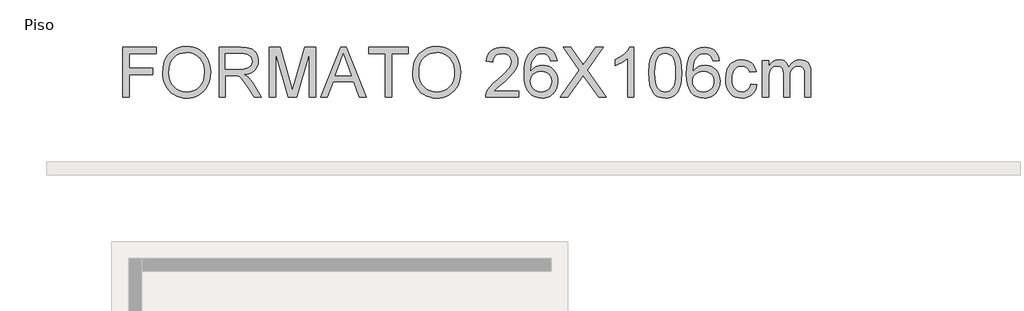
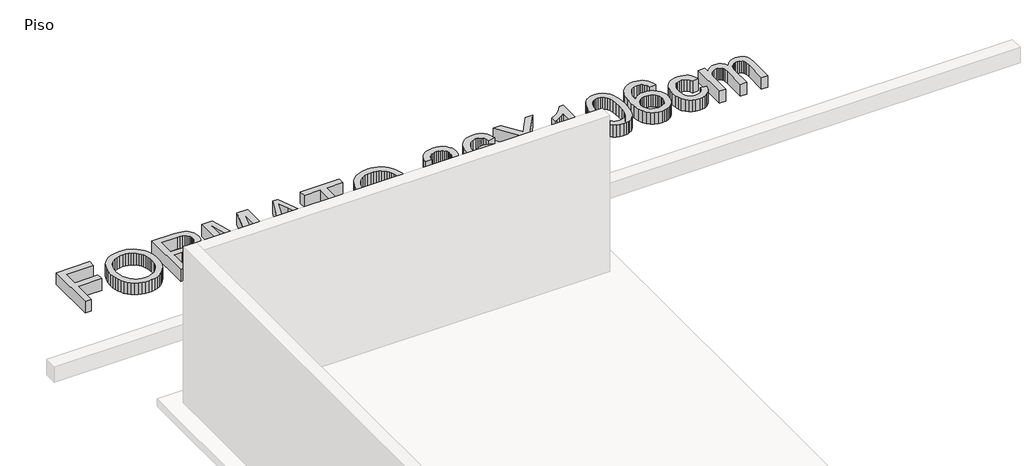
# One storey, part 2 of 2: 1 proxy.
"""IFC4 building model written with IfcOpenShell, lengths in millimetres."""

from ifc_helpers import new_model, si_unit, origin, origin_with_axes, place, context, project, spatial, polyline, outline, extrude, element, save

model = new_model("IFC4")

# Units and contexts
model_context = context("Model", 3, world=origin())
ifc_project = project(units=[si_unit("LENGTHUNIT", "METRE", prefix="MILLI")], contexts=[model_context])

# Site, building, storey
site = spatial("IfcSite", under=ifc_project)
building = spatial("IfcBuilding", under=site)
storey = spatial("IfcBuildingStorey", under=building, Name="Piso", Elevation=0.0)

# Proxy
placement = place(None, origin())
element("IfcBuildingElementProxy", 1, Name="600mm Arial", ObjectType="600mm Arial", at=placement, inside=storey, context=model_context, shape_type="SweptSolid", body=[
    extrude(outline(polyline([(288202.0859381, 2702.6380465), (288202.0859381, 3305.3759074), (288607.0504384, 3305.3759074), (288607.0504384, 3230.0336748), (288277.4281707, 3230.0336748), (288277.4281707, 3051.0958724), (288559.961543, 3051.0958724), (288559.961543, 2975.7536397), (288277.4281707, 2975.7536397), (288277.4281707, 2702.6380465), (288202.0859381, 2702.6380465)])), origin_with_axes(), (0.0, 0.0, 1.0), 150.0),
    extrude(outline(polyline([(288682.392671, 2996.0607259), (288687.4142602, 3066.7584483), (288702.4790279, 3129.3443727), (288727.5869741, 3183.8184992), (288743.9071391, 3208.0136381), (288762.7380987, 3230.1808276), (288805.8262774, 3267.1989534), (288854.7453857, 3293.6404718), (288909.4954237, 3309.5053828), (288970.0763912, 3314.7936865), (289010.6261841, 3312.310483), (289049.134232, 3304.8608726), (289085.6005348, 3292.4448553), (289120.0250925, 3275.062431), (289151.4422148, 3253.2378317), (289178.8862117, 3227.495289), (289202.357083, 3197.8348032), (289221.8548287, 3164.2563741), (289237.1771138, 3127.5233569), (289248.1216032, 3088.3991067), (289254.6882968, 3046.8836235), (289256.8771947, 3002.9769074), (289254.5733337, 2958.4907771), (289247.6617507, 2916.4142739), (289236.1424457, 2876.7473978), (289220.0154187, 2839.4901487), (289199.6623474, 2805.6266111), (289175.4649091, 2776.1408692), (289147.423104, 2751.032923), (289115.5369321, 2730.3027726), (289081.0617906, 2714.0791766), (289045.2530769, 2702.4908937), (289008.110791, 2695.537924), (288969.6349328, 2693.2202674), (288928.3769671, 2695.7816458), (288889.3630815, 2703.465781), (288852.5932761, 2716.272673), (288818.0675508, 2734.2023217), (288786.6872166, 2756.56035), (288759.3535844, 2782.6523805), (288736.0666541, 2812.4784132), (288716.8264257, 2846.0384482), (288701.761658, 2881.9851177), (288691.0011097, 2918.9710538), (288684.5447807, 2956.9962565), (288682.392671, 2996.0607259)]), holes=[polyline([(288757.7349036, 2995.3249619), (288761.5010955, 2945.375784), (288772.7996713, 2901.0368065), (288791.6306309, 2862.3080295), (288817.9939744, 2829.1894529), (288850.0410947, 2802.665161), (288885.9233848, 2783.7192383), (288925.6408447, 2772.3516846), (288969.1934744, 2768.5625001), (289013.4910652, 2772.3884728), (289053.6775746, 2783.8663911), (289089.7530028, 2802.9962548), (289121.7173496, 2829.7780641), (289147.8875551, 2863.5956165), (289166.5805589, 2903.8327097), (289177.7963613, 2950.4893437), (289181.5349621, 3003.5655186), (289179.9346754, 3038.0452586), (289175.1338153, 3070.2625243), (289167.1323819, 3100.2173158), (289155.9303752, 3127.9096329), (289141.6519552, 3152.9761924), (289124.4212823, 3175.0537106), (289104.2383563, 3194.1421877), (289081.1031774, 3210.2416235), (289055.7331153, 3223.0209243), (289028.84554, 3232.1489963), (289000.4404514, 3237.6258395), (288970.5178496, 3239.4514539), (288928.4781346, 3235.9335823), (288889.4734461, 3225.3799676), (288853.503784, 3207.7906097), (288820.5691484, 3183.1655086), (288793.0791663, 3150.318245), (288773.4434648, 3108.0623993), (288761.6620439, 3056.3979716), (288757.7349036, 2995.3249619)])]), origin_with_axes(), (0.0, 0.0, 1.0), 150.0),
    extrude(outline(polyline([(289360.4727645, 2702.6380465), (289360.4727645, 3305.3759074), (289620.1974531, 3305.3759074), (289690.0030617, 3301.3108114), (289740.7891711, 3289.1155232), (289760.3880844, 3279.4218327), (289777.9084644, 3266.6011451), (289793.3503112, 3250.6534606), (289806.7136247, 3231.5787792), (289817.4971656, 3210.4025718), (289825.1996949, 3188.1503097), (289829.8212125, 3164.8219926), (289831.3617183, 3140.4176208), (289828.809537, 3109.4603509), (289821.152993, 3081.0414668), (289808.3920863, 3055.1609684), (289790.5268169, 3031.8188558), (289767.3272585, 3011.76009), (289738.563485, 2995.7296321), (289704.2354964, 2983.727482), (289664.3432925, 2975.7536397), (289689.1753272, 2959.5300438), (289707.1647568, 2943.527177), (289738.0300562, 2906.9229184), (289768.233168, 2865.9776524), (289868.738529, 2702.6380465), (289781.1826142, 2702.6380465), (289702.7501728, 2827.5707721), (289646.0963456, 2910.2706446), (289625.0351013, 2934.3853094), (289606.2915137, 2949.3397125), (289570.4598074, 2963.6871103), (289526.7554263, 2966.3358607), (289435.8149971, 2966.3358607), (289435.8149971, 2702.6380465), (289360.4727645, 2702.6380465)]), holes=[polyline([(289435.8149971, 3041.6780933), (289604.4521037, 3041.6780933), (289652.8837684, 3044.3452377), (289690.4629142, 3052.3466711), (289718.7530396, 3066.2158224), (289739.3176431, 3086.4861203), (289751.8440251, 3111.0054553), (289756.0194857, 3137.6217176), (289754.0283244, 3156.8895371), (289748.0548405, 3174.3731289), (289738.099034, 3190.0724931), (289724.1609049, 3203.9876296), (289705.9185565, 3215.3827744), (289683.050092, 3223.5221635), (289655.5555114, 3228.405797), (289623.4348147, 3230.0336748), (289435.8149971, 3230.0336748), (289435.8149971, 3041.6780933)])]), origin_with_axes(), (0.0, 0.0, 1.0), 150.0),
    extrude(outline(polyline([(289963.2106254, 2702.6380465), (289963.2106254, 3305.3759074), (290092.8522405, 3305.3759074), (290216.1662853, 2880.5457794), (290241.0351082, 2791.8126422), (290267.9640702, 2887.9034193), (290389.2179758, 3305.3759074), (290518.8595909, 3305.3759074), (290518.8595909, 2702.6380465), (290443.5173583, 2702.6380465), (290443.5173583, 3230.0336748), (290292.0971291, 2702.6380465), (290189.9730872, 2702.6380465), (290038.552858, 3230.0336748), (290038.552858, 2702.6380465), (289963.2106254, 2702.6380465)])), origin_with_axes(), (0.0, 0.0, 1.0), 150.0),
    extrude(outline(polyline([(290580.5166133, 2702.6380465), (290821.1114382, 3305.3759074), (290885.2700581, 3305.3759074), (291125.864883, 2702.6380465), (291046.2552192, 2702.6380465), (290977.2405569, 2890.9936281), (290728.9937866, 2890.9936281), (290660.1262771, 2702.6380465), (290580.5166133, 2702.6380465)]), holes=[polyline([(290756.6585126, 2966.3358607), (290949.7229837, 2966.3358607), (290895.4236012, 3114.5187283), (290853.1907481, 3230.0336748), (290815.6667846, 3127.4681746), (290756.6585126, 2966.3358607)])]), origin_with_axes(), (0.0, 0.0, 1.0), 150.0),
    extrude(outline(polyline([(291357.0419287, 2702.6380465), (291357.0419287, 3230.0336748), (291159.2685681, 3230.0336748), (291159.2685681, 3305.3759074), (291630.1575219, 3305.3759074), (291630.1575219, 3230.0336748), (291432.3841613, 3230.0336748), (291432.3841613, 2702.6380465), (291357.0419287, 2702.6380465)])), origin_with_axes(), (0.0, 0.0, 1.0), 150.0),
    extrude(outline(polyline([(291686.6641964, 2996.0607259), (291691.6857856, 3066.7584483), (291706.7505533, 3129.3443727), (291731.8584995, 3183.8184992), (291748.1786645, 3208.0136381), (291767.0096242, 3230.1808276), (291810.0978028, 3267.1989534), (291859.0169111, 3293.6404718), (291913.7669491, 3309.5053828), (291974.3479166, 3314.7936865), (292014.8977096, 3312.310483), (292053.4057574, 3304.8608726), (292089.8720602, 3292.4448553), (292124.2966179, 3275.062431), (292155.7137403, 3253.2378317), (292183.1577371, 3227.495289), (292206.6286084, 3197.8348032), (292226.1263541, 3164.2563741), (292241.4486392, 3127.5233569), (292252.3931286, 3088.3991067), (292258.9598222, 3046.8836235), (292261.1487201, 3002.9769074), (292258.8448591, 2958.4907771), (292251.9332761, 2916.4142739), (292240.4139711, 2876.7473978), (292224.2869442, 2839.4901487), (292203.9338728, 2805.6266111), (292179.7364345, 2776.1408692), (292151.6946295, 2751.032923), (292119.8084575, 2730.3027726), (292085.3333161, 2714.0791766), (292049.5246024, 2702.4908937), (292012.3823164, 2695.537924), (291973.9064582, 2693.2202674), (291932.6484925, 2695.7816458), (291893.6346069, 2703.465781), (291856.8648015, 2716.272673), (291822.3390762, 2734.2023217), (291790.958742, 2756.56035), (291763.6251098, 2782.6523805), (291740.3381795, 2812.4784132), (291721.0979512, 2846.0384482), (291706.0331835, 2881.9851177), (291695.2726351, 2918.9710538), (291688.8163061, 2956.9962565), (291686.6641964, 2996.0607259)]), holes=[polyline([(291762.006429, 2995.3249619), (291765.7726209, 2945.375784), (291777.0711967, 2901.0368065), (291795.9021564, 2862.3080295), (291822.2654998, 2829.1894529), (291854.3126201, 2802.665161), (291890.1949102, 2783.7192383), (291929.9123701, 2772.3516846), (291973.4649998, 2768.5625001), (292017.7625906, 2772.3884728), (292057.9491, 2783.8663911), (292094.0245282, 2802.9962548), (292125.988875, 2829.7780641), (292152.1590805, 2863.5956165), (292170.8520844, 2903.8327097), (292182.0678867, 2950.4893437), (292185.8064875, 3003.5655186), (292184.2062008, 3038.0452586), (292179.4053407, 3070.2625243), (292171.4039074, 3100.2173158), (292160.2019006, 3127.9096329), (292145.9234807, 3152.9761924), (292128.6928077, 3175.0537106), (292108.5098818, 3194.1421877), (292085.3747028, 3210.2416235), (292060.0046407, 3223.0209243), (292033.1170654, 3232.1489963), (292004.7119768, 3237.6258395), (291974.789375, 3239.4514539), (291932.74966, 3235.9335823), (291893.7449715, 3225.3799676), (291857.7753094, 3207.7906097), (291824.8406738, 3183.1655086), (291797.3506917, 3150.318245), (291777.7149902, 3108.0623993), (291765.9335693, 3056.3979716), (291762.006429, 2995.3249619)])]), origin_with_axes(), (0.0, 0.0, 1.0), 150.0),
    extrude(outline(polyline([(292958.0643717, 2777.9802791), (292958.0643717, 2702.6380465), (292562.5176505, 2702.6380465), (292564.1731195, 2729.1623384), (292570.6110544, 2754.5829842), (292589.1890952, 2795.1787624), (292616.3755746, 2834.56053), (292655.7021599, 2875.7817076), (292710.7005182, 2921.8957156), (292792.0024391, 2994.1109513), (292840.7835917, 3047.4170524), (292855.0114278, 3069.1956665), (292865.174168, 3090.679975), (292871.271812, 3111.869978), (292873.30436, 3132.7656753), (292871.3867752, 3152.4243694), (292865.6340205, 3170.4919739), (292856.046096, 3186.9684887), (292842.6230017, 3201.853914), (292826.1096986, 3214.1825593), (292807.2511478, 3222.9887346), (292786.0473493, 3228.2724398), (292762.4983031, 3230.0336748), (292737.6892611, 3228.3138265), (292715.5013782, 3223.1542815), (292695.9346546, 3214.5550399), (292678.9890902, 3202.5161016), (292665.2808874, 3187.4421368), (292655.4262484, 3169.7378158), (292649.4251734, 3149.4031385), (292647.2776622, 3126.438105), (292571.9354296, 3135.855884), (292578.4147512, 3174.750208), (292590.2007707, 3208.7333073), (292607.2934879, 3237.805182), (292629.6929028, 3261.965832), (292656.8839808, 3280.95774), (292688.351687, 3294.5233886), (292724.0960213, 3302.6627777), (292764.1169839, 3305.3759074), (292804.4966314, 3302.3592751), (292840.4341038, 3293.309378), (292871.9294011, 3278.2262162), (292898.9825233, 3257.1097897), (292920.7105537, 3231.5235969), (292936.2305753, 3203.0311364), (292945.5425883, 3171.6324081), (292948.6465927, 3137.327412), (292945.2988665, 3101.2933706), (292935.255688, 3065.8847286), (292917.4318054, 3029.8690812), (292890.7419666, 2992.0140239), (292848.1964139, 2946.8197208), (292782.8053892, 2888.7863361), (292696.1323912, 2816.313583), (292662.1400948, 2777.9802791), (292958.0643717, 2777.9802791)])), origin_with_axes(), (0.0, 0.0, 1.0), 150.0),
    extrude(outline(polyline([(293419.5355465, 3145.2736631), (293344.1933139, 3135.855884), (293332.053208, 3173.1959066), (293315.6456711, 3198.6901288), (293299.4496662, 3212.4029302), (293281.4694337, 3222.1977883), (293261.7049735, 3228.0747032), (293240.1562856, 3230.0336748), (293205.1339197, 3225.4719381), (293172.1716929, 3211.7867278), (293143.8631734, 3182.9631735), (293120.74179, 3143.2871003), (293111.7056885, 3117.9814176), (293105.1251993, 3087.166702), (293099.3310579, 3009.0101721), (293129.5525638, 3044.2716613), (293165.7705462, 3069.1220901), (293205.9616542, 3083.855764), (293248.1025367, 3088.7669887), (293284.3021251, 3085.4100655), (293317.7058102, 3075.3392958), (293348.3135922, 3058.5546798), (293376.1254711, 3035.0562174), (293399.2376574, 3006.2418601), (293415.7463619, 2973.5095596), (293425.6515847, 2936.8593158), (293428.9533256, 2896.2911288), (293427.3990241, 2868.8241393), (293422.7361198, 2842.3412342), (293414.9646127, 2816.8424134), (293404.0845027, 2792.3276769), (293390.4820659, 2769.7121313), (293374.5435785, 2749.9108829), (293356.2690404, 2732.9239318), (293335.6584516, 2718.7512779), (293313.1532705, 2707.5814608), (293289.1949556, 2699.6030201), (293263.7835068, 2694.8159556), (293236.9189241, 2693.2202674), (293192.005131, 2697.4509104), (293151.4415425, 2710.1428392), (293115.2281586, 2731.2960539), (293083.3649793, 2760.9105546), (293057.3879119, 2800.2371398), (293038.8328638, 2850.5266086), (293027.6998349, 2911.7789608), (293023.9888253, 2983.9941964), (293028.1091036, 3064.9558265), (293040.4699387, 3134.0532623), (293061.0713304, 3191.2865037), (293074.462235, 3215.4540515), (293089.9132788, 3236.6555507), (293121.1740514, 3266.7207068), (293157.4196249, 3288.1958182), (293198.6499995, 3301.0808851), (293244.8651752, 3305.3759074), (293279.5656444, 3302.71796), (293310.9735697, 3294.7441178), (293339.0889512, 3281.4543807), (293363.9117888, 3262.8487488), (293384.7706979, 3239.5526214), (293400.9942939, 3212.191398), (293412.5825768, 3180.7650786), (293419.5355465, 3145.2736631)]), holes=[polyline([(293099.3310579, 2897.4683512), (293103.6904595, 2864.0830601), (293116.7686645, 2832.2060852), (293137.0757506, 2804.7988766), (293163.1217959, 2784.8228842), (293194.5573123, 2772.6275961), (293231.0328122, 2768.5625001), (293257.2214117, 2770.6686245), (293280.7520638, 2776.9869977), (293301.6247685, 2787.5176199), (293319.8395258, 2802.2604908), (293334.6145864, 2820.6178024), (293345.1682012, 2841.9917463), (293351.50037, 2866.3823226), (293353.611093, 2893.7895312), (293351.5279612, 2920.1252835), (293345.2785658, 2943.5087829), (293334.8629068, 2963.9400292), (293320.2809842, 2981.4190225), (293302.0110446, 2995.4215309), (293280.5313346, 3005.4233227), (293255.8418542, 3011.4243977), (293227.9426034, 3013.424756), (293202.1034918, 3011.4243977), (293178.2969282, 3005.4233227), (293156.5229126, 2995.4215309), (293136.781445, 2981.4190225), (293120.3969006, 2964.1699554), (293108.6936547, 2944.4284879), (293101.6717071, 2922.1946198), (293099.3310579, 2897.4683512)])]), origin_with_axes(), (0.0, 0.0, 1.0), 150.0),
    extrude(outline(polyline([(293457.2066628, 2702.6380465), (293689.5609309, 3031.0830918), (293494.8777791, 3305.3759074), (293585.2295971, 3305.3759074), (293694.8584317, 3151.0126222), (293721.0148415, 3111.9067662), (293731.793784, 3090.8271278), (293775.0567066, 3152.0426918), (293883.5083188, 3305.3759074), (293975.184512, 3305.3759074), (293780.5013602, 3030.200175), (294012.8556283, 2702.6380465), (293922.5038103, 2702.6380465), (293767.6990667, 2921.0127989), (293735.4726039, 2966.3358607), (293700.0087796, 2916.5982149), (293548.882856, 2702.6380465), (293457.2066628, 2702.6380465)])), origin_with_axes(), (0.0, 0.0, 1.0), 150.0),
    extrude(outline(polyline([(294342.477896, 2702.6380465), (294267.1356634, 2702.6380465), (294267.1356634, 3172.349778), (294235.6817528, 3146.910738), (294195.7665563, 3121.5084862), (294153.8647971, 3099.3068078), (294116.4511982, 3083.4694879), (294116.4511982, 3154.6914422), (294175.6250171, 3186.8811168), (294226.8893731, 3225.1776325), (294267.3012103, 3265.9021693), (294293.9174726, 3305.3759074), (294342.477896, 3305.3759074), (294342.477896, 2702.6380465)])), origin_with_axes(), (0.0, 0.0, 1.0), 150.0),
    extrude(outline(polyline([(294521.4156984, 2999.1509346), (294526.9523225, 3095.6279879), (294533.8731025, 3136.5410643), (294543.5621946, 3172.5705072), (294555.9782119, 3204.0106222), (294571.0797678, 3231.1557149), (294588.8668623, 3254.0057853), (294609.3394953, 3272.5608335), (294632.5666448, 3286.9174283), (294658.6172885, 3297.1721389), (294687.4914266, 3303.3249653), (294719.189059, 3305.3759074), (294765.6157668, 3300.5198651), (294807.1864323, 3285.9517381), (294841.9512808, 3262.2417435), (294867.9605379, 3229.9600984), (294887.6054364, 3189.3827143), (294903.2772094, 3140.7855028), (294913.5411171, 3079.0732981), (294916.9624197, 2999.1509346), (294911.4809779, 2903.2257044), (294904.6291758, 2862.4505838), (294895.0366527, 2826.4671261), (294882.7172044, 2795.0132155), (294867.6846264, 2767.8267361), (294849.9389187, 2744.9076878), (294829.4800812, 2726.2560706), (294806.2253406, 2711.8029067), (294780.0919234, 2701.4792182), (294751.0798295, 2695.2850051), (294719.189059, 2693.2202674), (294677.69197, 2696.8071169), (294640.9037705, 2707.5676653), (294608.8244605, 2725.5019125), (294581.4540401, 2750.6098587), (294555.1872656, 2795.9972999), (294536.4252838, 2852.5499596), (294525.1680948, 2920.2678378), (294521.4156984, 2999.1509346)]), holes=[polyline([(294596.7579311, 2999.2980874), (294598.965223, 2933.8012967), (294605.5870989, 2880.7849027), (294616.6235588, 2840.2489053), (294632.0746026, 2812.1933047), (294650.7630079, 2793.1048277), (294671.5115525, 2779.4702012), (294694.3202362, 2771.2894253), (294719.189059, 2768.5625001), (294744.0578819, 2771.2986224), (294766.8665656, 2779.5069894), (294787.6151102, 2793.1876011), (294806.3035155, 2812.3404575), (294821.7545593, 2840.4420434), (294832.7910192, 2880.9688437), (294839.4128951, 2933.9208584), (294841.620187, 2999.2980874), (294839.4864715, 3063.0612342), (294833.0853248, 3115.1441277), (294822.4167469, 3155.5467678), (294807.4807379, 3184.2691546), (294789.1050322, 3204.2911322), (294768.1173644, 3218.5925448), (294744.5177344, 3227.1733923), (294718.3061423, 3230.0336748), (294693.5660781, 3227.5136831), (294671.1436705, 3219.9537081), (294651.0389194, 3207.3537498), (294633.251825, 3189.7138081), (294617.2857464, 3158.4438385), (294605.8814045, 3116.2845619), (294599.0387994, 3063.2359782), (294596.7579311, 2999.2980874)])]), origin_with_axes(), (0.0, 0.0, 1.0), 150.0),
    extrude(outline(polyline([(295369.0158153, 3145.2736631), (295293.6735827, 3135.855884), (295281.5334769, 3173.1959066), (295265.1259399, 3198.6901288), (295248.9299351, 3212.4029302), (295230.9497025, 3222.1977883), (295211.1852423, 3228.0747032), (295189.6365545, 3230.0336748), (295154.6141885, 3225.4719381), (295121.6519618, 3211.7867278), (295093.3434422, 3182.9631735), (295070.2220588, 3143.2871003), (295061.1859573, 3117.9814176), (295054.6054682, 3087.166702), (295048.8113267, 3009.0101721), (295079.0328326, 3044.2716613), (295115.2508151, 3069.1220901), (295155.441923, 3083.855764), (295197.5828056, 3088.7669887), (295233.7823939, 3085.4100655), (295267.1860791, 3075.3392958), (295297.7938611, 3058.5546798), (295325.6057399, 3035.0562174), (295348.7179262, 3006.2418601), (295365.2266308, 2973.5095596), (295375.1318535, 2936.8593158), (295378.4335944, 2896.2911288), (295376.879293, 2868.8241393), (295372.2163887, 2842.3412342), (295364.4448815, 2816.8424134), (295353.5647715, 2792.3276769), (295339.9623348, 2769.7121313), (295324.0238473, 2749.9108829), (295305.7493092, 2732.9239318), (295285.1387204, 2718.7512779), (295262.6335394, 2707.5814608), (295238.6752244, 2699.6030201), (295213.2637756, 2694.8159556), (295186.3991929, 2693.2202674), (295141.4853998, 2697.4509104), (295100.9218113, 2710.1428392), (295064.7084274, 2731.2960539), (295032.8452481, 2760.9105546), (295006.8681808, 2800.2371398), (294988.3131326, 2850.5266086), (294977.1801037, 2911.7789608), (294973.4690941, 2983.9941964), (294977.5893725, 3064.9558265), (294989.9502075, 3134.0532623), (295010.5515992, 3191.2865037), (295023.9425039, 3215.4540515), (295039.3935477, 3236.6555507), (295070.6543202, 3266.7207068), (295106.8998938, 3288.1958182), (295148.1302684, 3301.0808851), (295194.345444, 3305.3759074), (295229.0459132, 3302.71796), (295260.4538386, 3294.7441178), (295288.56922, 3281.4543807), (295313.3920577, 3262.8487488), (295334.2509668, 3239.5526214), (295350.4745628, 3212.191398), (295362.0628456, 3180.7650786), (295369.0158153, 3145.2736631)]), holes=[polyline([(295048.8113267, 2897.4683512), (295053.1707284, 2864.0830601), (295066.2489333, 2832.2060852), (295086.5560194, 2804.7988766), (295112.6020647, 2784.8228842), (295144.0375812, 2772.6275961), (295180.513081, 2768.5625001), (295206.7016805, 2770.6686245), (295230.2323326, 2776.9869977), (295251.1050374, 2787.5176199), (295269.3197946, 2802.2604908), (295284.0948553, 2820.6178024), (295294.64847, 2841.9917463), (295300.9806388, 2866.3823226), (295303.0913618, 2893.7895312), (295301.00823, 2920.1252835), (295294.7588346, 2943.5087829), (295284.3431756, 2963.9400292), (295269.761253, 2981.4190225), (295251.4913134, 2995.4215309), (295230.0116035, 3005.4233227), (295205.3221231, 3011.4243977), (295177.4228722, 3013.424756), (295151.5837606, 3011.4243977), (295127.777197, 3005.4233227), (295106.0031814, 2995.4215309), (295086.2617138, 2981.4190225), (295069.8771695, 2964.1699554), (295058.1739235, 2944.4284879), (295051.1519759, 2922.1946198), (295048.8113267, 2897.4683512)])]), origin_with_axes(), (0.0, 0.0, 1.0), 150.0),
    extrude(outline(polyline([(295745.7269784, 2862.7402908), (295821.069211, 2853.3225117), (295812.8746396, 2817.7713154), (295800.0631491, 2786.3128063), (295782.6347396, 2758.9469844), (295760.589411, 2735.6738497), (295734.8560654, 2717.1004075), (295706.3636049, 2703.833663), (295675.1120294, 2695.8736163), (295641.101339, 2693.2202674), (295598.8454933, 2696.92208), (295560.9582463, 2708.0275178), (295527.439598, 2726.5365806), (295498.2895484, 2752.4492687), (295474.694517, 2785.2781382), (295457.8409231, 2824.5357456), (295447.7287667, 2870.2220909), (295444.3580479, 2922.337174), (295450.1154012, 2989.3836677), (295457.3120927, 3019.5545898), (295467.3874608, 3047.4906288), (295480.4104835, 3072.6307646), (295496.4501385, 3094.4139773), (295515.5064258, 3112.8402667), (295537.5793455, 3127.9096329), (295561.6710177, 3139.6266745), (295586.7835624, 3147.9959899), (295612.9169796, 3153.0175791), (295640.0712694, 3154.6914422), (295673.4979472, 3152.3921797), (295703.7332486, 3145.4943923), (295730.7771738, 3133.99808), (295754.6297227, 3117.9032427), (295774.886225, 3097.5777624), (295791.1420107, 3073.3895213), (295803.3970797, 3045.3385191), (295811.6514319, 3013.424756), (295736.3091993, 3004.006977), (295722.6423832, 3036.8772332), (295701.3604098, 3060.440075), (295673.6405014, 3074.6219259), (295640.6598806, 3079.3492096), (295615.0598922, 3077.022356), (295591.9706985, 3070.0417951), (295571.3922994, 3058.407527), (295553.3246949, 3042.1195517), (295538.6140136, 3020.8007901), (295528.1063841, 2994.0741631), (295521.8018065, 2961.9396708), (295519.7002806, 2924.3973132), (295521.7558212, 2886.289337), (295527.9224431, 2853.7823642), (295538.2001464, 2826.8763948), (295552.5889309, 2805.5714288), (295570.2978505, 2789.3800225), (295590.5359587, 2777.8147322), (295613.3032557, 2770.8755581), (295638.5997414, 2768.5625001), (295677.613627, 2774.3382474), (295694.485615, 2781.5579315), (295709.6009665, 2791.6654894), (295722.5366171, 2804.7712854), (295732.8695027, 2820.9856844), (295740.5996231, 2840.3086862), (295745.7269784, 2862.7402908)])), origin_with_axes(), (0.0, 0.0, 1.0), 150.0),
    extrude(outline(polyline([(295886.9936645, 2702.6380465), (295886.9936645, 3145.2736631), (295962.3358972, 3145.2736631), (295962.3358972, 3072.4330281), (295984.9974281, 3105.8918955), (296014.1336821, 3132.1034877), (296048.7513778, 3149.0444536), (296087.8572339, 3154.6914422), (296129.7589932, 3148.934089), (296147.5920729, 3141.7373974), (296163.3466193, 3131.6620293), (296188.4361714, 3104.0156974), (296204.8437084, 3067.1355273), (296232.3060993, 3105.4412401), (296263.6312512, 3132.8024635), (296298.819164, 3149.2191975), (296337.8698378, 3154.6914422), (296368.0315629, 3152.4151724), (296394.505271, 3145.5863628), (296417.2909621, 3134.2050136), (296436.3886361, 3118.2711247), (296451.4855935, 3097.6007551), (296462.2691345, 3072.0099638), (296468.7392591, 3041.4987508), (296470.8959673, 3006.0671161), (296470.8959673, 2702.6380465), (296395.5537347, 2702.6380465), (296395.5537347, 2973.6935006), (296393.8062952, 3011.2726464), (296388.5639768, 3036.6013217), (296378.7415275, 3053.9469578), (296363.2536955, 3067.5769857), (296343.3328855, 3076.4061536), (296320.2115021, 3079.3492096), (296298.8605508, 3077.4638144), (296279.3949947, 3071.8076287), (296261.8148338, 3062.3806526), (296246.1200682, 3049.182886), (296233.2120087, 3031.8280529), (296223.9919662, 3009.9298771), (296218.4599407, 2983.4883587), (296216.6159322, 2952.5034976), (296216.6159322, 2702.6380465), (296141.2736996, 2702.6380465), (296141.2736996, 2982.0812101), (296136.914298, 3024.6819451), (296131.4650459, 3041.4021818), (296123.836093, 3055.0689979), (296113.7239367, 3065.6915905), (296100.8250742, 3073.2791567), (296085.1395057, 3077.8316964), (296066.667231, 3079.3492096), (296037.6413416, 3075.3025076), (296010.8963205, 3063.1624018), (295988.8234008, 3043.2231977), (295973.8138154, 3015.7792008), (295965.2053767, 2977.7034143), (295962.3358972, 2925.8688412), (295962.3358972, 2702.6380465), (295886.9936645, 2702.6380465)])), origin_with_axes(), (0.0, 0.0, 1.0), 150.0),
])

save(model, "model.ifc")
